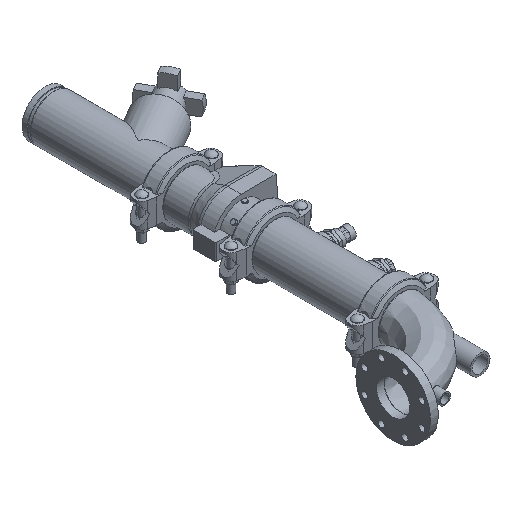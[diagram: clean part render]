
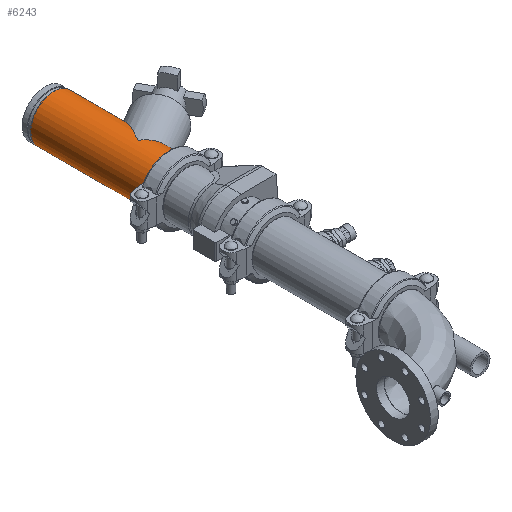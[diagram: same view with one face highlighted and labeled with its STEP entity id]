
A CAD part, isometric view. The second image highlights one B-rep face of the part: STEP entity #6243.
In plain terms, the highlighted cylindrical face has radius 70.65 mm (diameter 141.3 mm), a full revolution.
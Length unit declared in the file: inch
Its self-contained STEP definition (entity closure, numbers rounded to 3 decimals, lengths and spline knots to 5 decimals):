
#127=ELLIPSE('',#6818,5.563,2.7815);
#128=ELLIPSE('',#6819,3.2118,2.7815);
#129=ELLIPSE('',#6820,3.2118,2.7815);
#130=ELLIPSE('',#6821,5.563,2.7815);
#220=LINE('',#9608,#672);
#221=LINE('',#9613,#673);
#672=VECTOR('',#7701,2.7815);
#673=VECTOR('',#7706,2.7815);
#1095=CYLINDRICAL_SURFACE('',#6815,2.7815);
#1311=FACE_OUTER_BOUND('',#1661,.T.);
#1661=EDGE_LOOP('',(#4059,#4060,#4061,#4062,#4063,#4064,#4065,#4066,#4067,
#4068,#4069,#4070));
#2074=CIRCLE('',#6796,2.7815);
#2075=CIRCLE('',#6797,2.7815);
#2088=CIRCLE('',#6816,2.7815);
#2089=CIRCLE('',#6817,2.7815);
#2450=VERTEX_POINT('',#9566);
#2451=VERTEX_POINT('',#9567);
#2464=VERTEX_POINT('',#9603);
#2465=VERTEX_POINT('',#9604);
#2466=VERTEX_POINT('',#9607);
#2467=VERTEX_POINT('',#9609);
#2468=VERTEX_POINT('',#9611);
#2469=VERTEX_POINT('',#9614);
#3075=EDGE_CURVE('',#2450,#2451,#2074,.T.);
#3076=EDGE_CURVE('',#2451,#2450,#2075,.T.);
#3092=EDGE_CURVE('',#2464,#2465,#2088,.T.);
#3093=EDGE_CURVE('',#2465,#2464,#2089,.T.);
#3094=EDGE_CURVE('',#2465,#2466,#220,.T.);
#3095=EDGE_CURVE('',#2466,#2467,#127,.T.);
#3096=EDGE_CURVE('',#2467,#2468,#128,.T.);
#3097=EDGE_CURVE('',#2468,#2451,#221,.T.);
#3098=EDGE_CURVE('',#2468,#2469,#129,.T.);
#3099=EDGE_CURVE('',#2469,#2466,#130,.T.);
#4059=ORIENTED_EDGE('',*,*,#3092,.F.);
#4060=ORIENTED_EDGE('',*,*,#3093,.F.);
#4061=ORIENTED_EDGE('',*,*,#3094,.T.);
#4062=ORIENTED_EDGE('',*,*,#3095,.T.);
#4063=ORIENTED_EDGE('',*,*,#3096,.T.);
#4064=ORIENTED_EDGE('',*,*,#3097,.T.);
#4065=ORIENTED_EDGE('',*,*,#3076,.T.);
#4066=ORIENTED_EDGE('',*,*,#3075,.T.);
#4067=ORIENTED_EDGE('',*,*,#3097,.F.);
#4068=ORIENTED_EDGE('',*,*,#3098,.T.);
#4069=ORIENTED_EDGE('',*,*,#3099,.T.);
#4070=ORIENTED_EDGE('',*,*,#3094,.F.);
#6243=ADVANCED_FACE('',(#1311),#1095,.T.);
#6796=AXIS2_PLACEMENT_3D('',#9568,#7654,#7655);
#6797=AXIS2_PLACEMENT_3D('',#9569,#7656,#7657);
#6815=AXIS2_PLACEMENT_3D('',#9602,#7695,#7696);
#6816=AXIS2_PLACEMENT_3D('',#9605,#7697,#7698);
#6817=AXIS2_PLACEMENT_3D('',#9606,#7699,#7700);
#6818=AXIS2_PLACEMENT_3D('',#9610,#7702,#7703);
#6819=AXIS2_PLACEMENT_3D('',#9612,#7704,#7705);
#6820=AXIS2_PLACEMENT_3D('',#9615,#7707,#7708);
#6821=AXIS2_PLACEMENT_3D('',#9616,#7709,#7710);
#7654=DIRECTION('center_axis',(1.,0.,0.));
#7655=DIRECTION('ref_axis',(0.,0.,-1.));
#7656=DIRECTION('center_axis',(1.,0.,0.));
#7657=DIRECTION('ref_axis',(0.,0.,-1.));
#7695=DIRECTION('center_axis',(1.,0.,0.));
#7696=DIRECTION('ref_axis',(0.,1.,0.));
#7697=DIRECTION('center_axis',(1.,0.,0.));
#7698=DIRECTION('ref_axis',(0.,0.,-1.));
#7699=DIRECTION('center_axis',(1.,0.,0.));
#7700=DIRECTION('ref_axis',(0.,0.,-1.));
#7701=DIRECTION('',(-1.,0.,0.));
#7702=DIRECTION('center_axis',(0.5,0.866,0.));
#7703=DIRECTION('ref_axis',(-0.866,0.5,0.));
#7704=DIRECTION('center_axis',(-0.866,0.5,0.));
#7705=DIRECTION('ref_axis',(-0.5,-0.866,0.));
#7706=DIRECTION('',(-1.,0.,0.));
#7707=DIRECTION('center_axis',(-0.866,0.5,0.));
#7708=DIRECTION('ref_axis',(-0.5,-0.866,0.));
#7709=DIRECTION('center_axis',(0.5,0.866,0.));
#7710=DIRECTION('ref_axis',(-0.866,0.5,0.));
#9566=CARTESIAN_POINT('',(-6.875,2.7815,0.));
#9567=CARTESIAN_POINT('',(-6.875,-2.7815,0.));
#9568=CARTESIAN_POINT('Origin',(-6.875,0.,0.));
#9569=CARTESIAN_POINT('Origin',(-6.875,0.,0.));
#9602=CARTESIAN_POINT('Origin',(0.,0.,
0.));
#9603=CARTESIAN_POINT('',(6.875,2.7815,0.));
#9604=CARTESIAN_POINT('',(6.875,-2.7815,0.));
#9605=CARTESIAN_POINT('Origin',(6.875,0.,0.));
#9606=CARTESIAN_POINT('Origin',(6.875,0.,0.));
#9607=CARTESIAN_POINT('',(1.44546,-2.7815,0.));
#9608=CARTESIAN_POINT('',(0.,-2.7815,0.));
#9609=CARTESIAN_POINT('',(-3.37224,0.,-2.7815));
#9610=CARTESIAN_POINT('Origin',(-3.37224,0.,0.));
#9611=CARTESIAN_POINT('',(-4.97814,-2.7815,0.));
#9612=CARTESIAN_POINT('Origin',(-3.37224,0.,0.));
#9613=CARTESIAN_POINT('',(0.,-2.7815,0.));
#9614=CARTESIAN_POINT('',(-3.37224,0.,2.7815));
#9615=CARTESIAN_POINT('Origin',(-3.37224,0.,0.));
#9616=CARTESIAN_POINT('Origin',(-3.37224,0.,0.));
